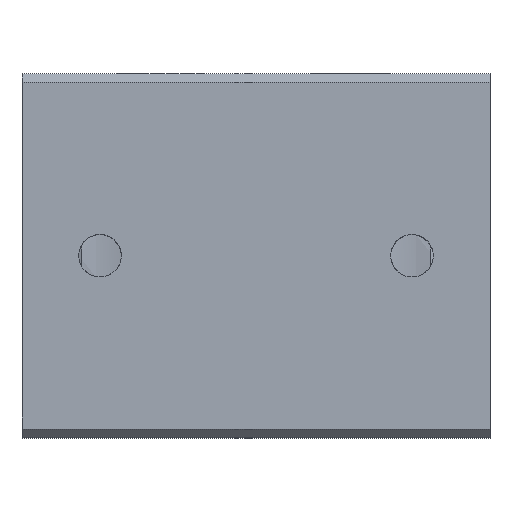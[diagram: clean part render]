
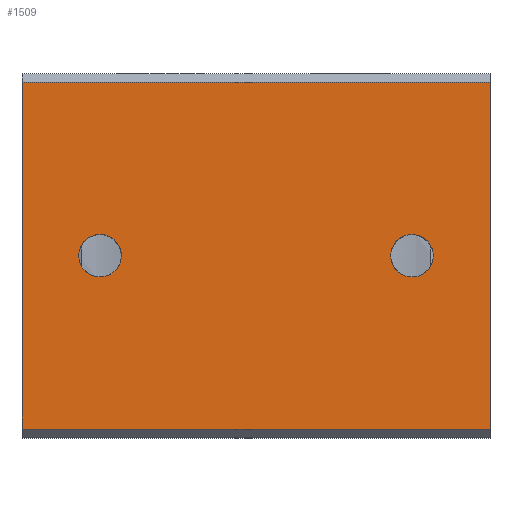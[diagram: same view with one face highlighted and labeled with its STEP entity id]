
A CAD part, top view. The second image highlights one B-rep face of the part: STEP entity #1509.
In plain terms, the highlighted planar face has unit normal (0, 0, 1).
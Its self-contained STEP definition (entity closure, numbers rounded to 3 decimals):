
#1357=CARTESIAN_POINT('',(54.0,-20.,28.0));
#1358=VERTEX_POINT('',#1357);
#1365=CARTESIAN_POINT('',(0.0,-20.,28.0));
#1366=VERTEX_POINT('',#1365);
#1367=CARTESIAN_POINT('',(54.0,-20.,28.0));
#1368=DIRECTION('',(-1.0,0.0,0.0));
#1369=VECTOR('',#1368,54.0);
#1370=LINE('',#1367,#1369);
#1371=EDGE_CURVE('',#1358,#1366,#1370,.T.);
#1396=CARTESIAN_POINT('',(0.0,20.0,28.0));
#1397=VERTEX_POINT('',#1396);
#1398=CARTESIAN_POINT('',(0.0,-20.,28.0));
#1399=DIRECTION('',(0.0,1.0,0.0));
#1400=VECTOR('',#1399,40.0);
#1401=LINE('',#1398,#1400);
#1402=EDGE_CURVE('',#1366,#1397,#1401,.T.);
#1464=CARTESIAN_POINT('',(0.0,-21.,28.0));
#1465=DIRECTION('',(0.0,0.0,1.0));
#1466=DIRECTION('',(1.0,0.0,0.0));
#1467=AXIS2_PLACEMENT_3D('',#1464,#1465,#1466);
#1468=PLANE('',#1467);
#1469=ORIENTED_EDGE('',*,*,#1371,.F.);
#1470=CARTESIAN_POINT('',(54.0,20.0,28.0));
#1471=VERTEX_POINT('',#1470);
#1472=CARTESIAN_POINT('',(54.0,-20.,28.0));
#1473=DIRECTION('',(0.0,1.0,0.0));
#1474=VECTOR('',#1473,40.0);
#1475=LINE('',#1472,#1474);
#1476=EDGE_CURVE('',#1358,#1471,#1475,.T.);
#1477=ORIENTED_EDGE('',*,*,#1476,.T.);
#1478=CARTESIAN_POINT('',(0.0,20.0,28.0));
#1479=DIRECTION('',(1.0,0.0,0.0));
#1480=VECTOR('',#1479,54.0);
#1481=LINE('',#1478,#1480);
#1482=EDGE_CURVE('',#1397,#1471,#1481,.T.);
#1483=ORIENTED_EDGE('',*,*,#1482,.F.);
#1484=ORIENTED_EDGE('',*,*,#1402,.F.);
#1485=EDGE_LOOP('',(#1469,#1477,#1483,#1484));
#1486=FACE_OUTER_BOUND('',#1485,.T.);
#1487=CARTESIAN_POINT('',(11.459,0.0,28.));
#1488=VERTEX_POINT('',#1487);
#1489=CARTESIAN_POINT('',(9.,0.0,28.));
#1490=DIRECTION('',(0.0,0.0,-1.0));
#1491=DIRECTION('',(1.0,0.0,0.0));
#1492=AXIS2_PLACEMENT_3D('',#1489,#1490,#1491);
#1493=CIRCLE('',#1492,2.459);
#1494=EDGE_CURVE('',#1488,#1488,#1493,.T.);
#1495=ORIENTED_EDGE('',*,*,#1494,.T.);
#1496=EDGE_LOOP('',(#1495));
#1497=FACE_BOUND('',#1496,.T.);
#1498=CARTESIAN_POINT('',(47.459,0.,28.));
#1499=VERTEX_POINT('',#1498);
#1500=CARTESIAN_POINT('',(45.0,0.,28.));
#1501=DIRECTION('',(0.0,0.0,-1.0));
#1502=DIRECTION('',(1.0,0.0,0.0));
#1503=AXIS2_PLACEMENT_3D('',#1500,#1501,#1502);
#1504=CIRCLE('',#1503,2.459);
#1505=EDGE_CURVE('',#1499,#1499,#1504,.T.);
#1506=ORIENTED_EDGE('',*,*,#1505,.T.);
#1507=EDGE_LOOP('',(#1506));
#1508=FACE_BOUND('',#1507,.T.);
#1509=ADVANCED_FACE('',(#1486,#1497,#1508),#1468,.T.);
